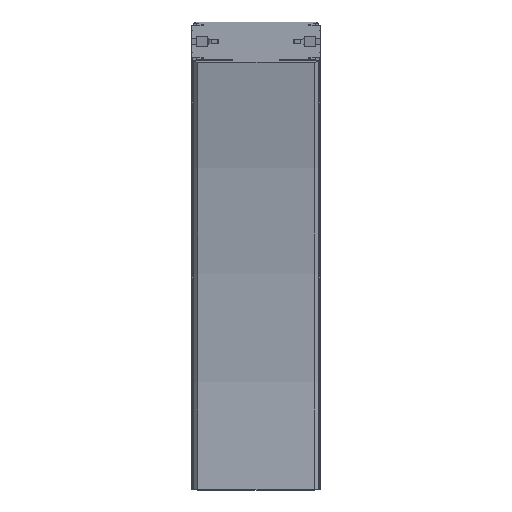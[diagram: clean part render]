
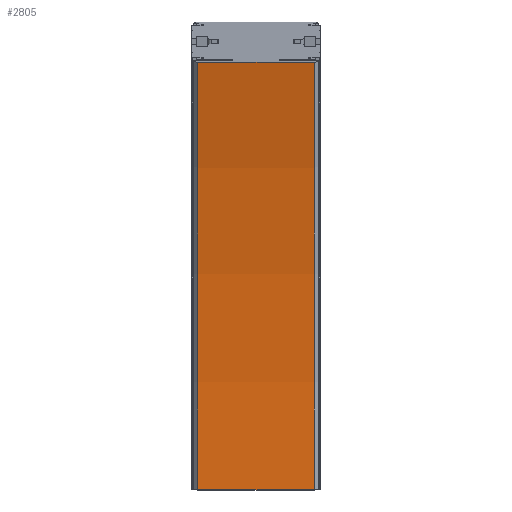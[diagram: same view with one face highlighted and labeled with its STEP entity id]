
A CAD part, top view. The second image highlights one B-rep face of the part: STEP entity #2805.
In plain terms, the highlighted cylindrical face has radius 820 mm (diameter 1640 mm), a partial arc.
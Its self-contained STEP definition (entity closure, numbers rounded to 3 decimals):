
#92=CYLINDRICAL_SURFACE('',#3101,820.);
#315=CIRCLE('',#3100,820.);
#316=CIRCLE('',#3102,820.);
#474=FACE_OUTER_BOUND('',#628,.T.);
#628=EDGE_LOOP('',(#2299,#2300,#2301,#2302));
#821=LINE('',#9361,#1027);
#822=LINE('',#9363,#1028);
#1027=VECTOR('',#3830,10.);
#1028=VECTOR('',#3831,10.);
#1299=VERTEX_POINT('',#9354);
#1300=VERTEX_POINT('',#9356);
#1301=VERTEX_POINT('',#9360);
#1302=VERTEX_POINT('',#9362);
#1698=EDGE_CURVE('',#1299,#1300,#315,.T.);
#1699=EDGE_CURVE('',#1301,#1299,#821,.T.);
#1700=EDGE_CURVE('',#1302,#1300,#822,.T.);
#1701=EDGE_CURVE('',#1301,#1302,#316,.T.);
#2299=ORIENTED_EDGE('',*,*,#1699,.T.);
#2300=ORIENTED_EDGE('',*,*,#1698,.T.);
#2301=ORIENTED_EDGE('',*,*,#1700,.F.);
#2302=ORIENTED_EDGE('',*,*,#1701,.F.);
#2805=ADVANCED_FACE('',(#474),#92,.F.);
#3100=AXIS2_PLACEMENT_3D('',#9358,#3826,#3827);
#3101=AXIS2_PLACEMENT_3D('',#9359,#3828,#3829);
#3102=AXIS2_PLACEMENT_3D('',#9364,#3832,#3833);
#3826=DIRECTION('center_axis',(1.,0.,0.));
#3827=DIRECTION('ref_axis',(0.,0.,
-1.));
#3828=DIRECTION('center_axis',(1.,0.,0.));
#3829=DIRECTION('ref_axis',(0.,0.,-1.));
#3830=DIRECTION('',(1.,0.,0.));
#3831=DIRECTION('',(1.,0.,0.));
#3832=DIRECTION('center_axis',(1.,0.,0.));
#3833=DIRECTION('ref_axis',(0.,0.,
-1.));
#9354=CARTESIAN_POINT('',(29.,0.,40.));
#9356=CARTESIAN_POINT('',(29.,212.232,67.941));
#9358=CARTESIAN_POINT('Origin',(29.,0.,860.));
#9359=CARTESIAN_POINT('Origin',(-14.5,0.,860.));
#9360=CARTESIAN_POINT('',(-29.,0.,40.));
#9361=CARTESIAN_POINT('',(-29.,0.,40.));
#9362=CARTESIAN_POINT('',(-29.,212.232,67.941));
#9363=CARTESIAN_POINT('',(-29.,212.232,67.941));
#9364=CARTESIAN_POINT('Origin',(-29.,0.,
860.));
